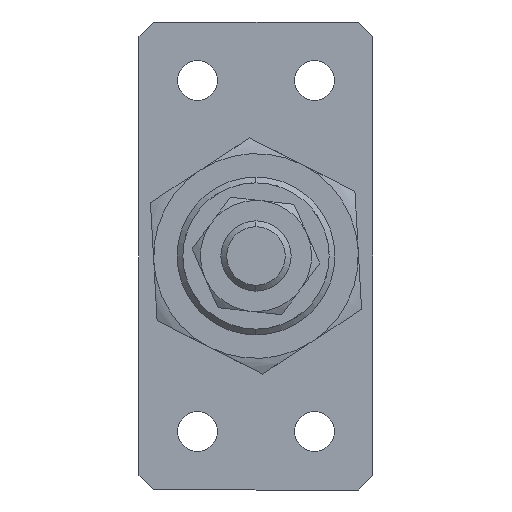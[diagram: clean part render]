
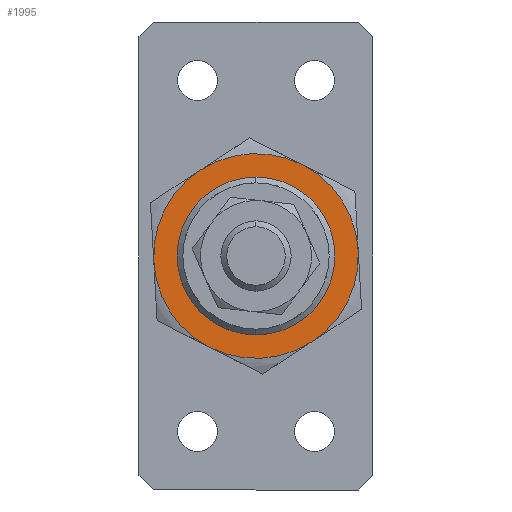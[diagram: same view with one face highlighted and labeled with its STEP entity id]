
A CAD part, left-side view. The second image highlights one B-rep face of the part: STEP entity #1995.
In plain terms, the highlighted planar face has unit normal (-1, 0, 0) as drawn and (0, 0, -1) by its records, which use the part's own axes.
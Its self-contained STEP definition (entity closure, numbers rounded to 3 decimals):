
#29 = DIRECTION ( 'NONE',  ( 1., 0., 0. ) ) ;
#37 = CARTESIAN_POINT ( 'NONE',  ( 0., 0., -5. ) ) ;
#62 = AXIS2_PLACEMENT_3D ( 'NONE', #37, #2922, #4189 ) ;
#84 = CIRCLE ( 'NONE', #4132, 17.5 ) ;
#110 = CARTESIAN_POINT ( 'NONE',  ( 0., 0., -5. ) ) ;
#161 = ORIENTED_EDGE ( 'NONE', *, *, #4270, .F. ) ;
#233 = CARTESIAN_POINT ( 'NONE',  ( 8.75, -15.155, -5. ) ) ;
#259 = DIRECTION ( 'NONE',  ( 0., 0., 1. ) ) ;
#425 = DIRECTION ( 'NONE',  ( 0., 0., 1. ) ) ;
#432 = CARTESIAN_POINT ( 'NONE',  ( 12.5, 0., -5. ) ) ;
#438 = VERTEX_POINT ( 'NONE', #3554 ) ;
#543 = CIRCLE ( 'NONE', #3220, 12.5 ) ;
#583 = DIRECTION ( 'NONE',  ( 1., 0., 0. ) ) ;
#698 = CARTESIAN_POINT ( 'NONE',  ( 0., 0., -5. ) ) ;
#765 = EDGE_CURVE ( 'NONE', #2334, #1547, #4344, .T. ) ;
#794 = DIRECTION ( 'NONE',  ( 0., 0., 1. ) ) ;
#828 = DIRECTION ( 'NONE',  ( 1., 0., 0. ) ) ;
#886 = CARTESIAN_POINT ( 'NONE',  ( 0., 0., -5. ) ) ;
#958 = EDGE_CURVE ( 'NONE', #2666, #438, #543, .T. ) ;
#985 = EDGE_CURVE ( 'NONE', #1547, #4388, #3915, .T. ) ;
#1069 = AXIS2_PLACEMENT_3D ( 'NONE', #4001, #794, #583 ) ;
#1085 = EDGE_CURVE ( 'NONE', #4388, #1910, #3242, .T. ) ;
#1262 = AXIS2_PLACEMENT_3D ( 'NONE', #886, #4306, #3335 ) ;
#1279 = DIRECTION ( 'NONE',  ( 0., 0., 1. ) ) ;
#1320 = ORIENTED_EDGE ( 'NONE', *, *, #1085, .F. ) ;
#1460 = CARTESIAN_POINT ( 'NONE',  ( -8.75, 15.155, -5. ) ) ;
#1547 = VERTEX_POINT ( 'NONE', #4187 ) ;
#1578 = CARTESIAN_POINT ( 'NONE',  ( 0., 0., -5. ) ) ;
#1592 = ORIENTED_EDGE ( 'NONE', *, *, #2335, .T. ) ;
#1649 = DIRECTION ( 'NONE',  ( 0., 0., 1. ) ) ;
#1807 = AXIS2_PLACEMENT_3D ( 'NONE', #110, #259, #3901 ) ;
#1809 = DIRECTION ( 'NONE',  ( 1., 0., 0. ) ) ;
#1829 = CARTESIAN_POINT ( 'NONE',  ( 0., 0., -5. ) ) ;
#1910 = VERTEX_POINT ( 'NONE', #1460 ) ;
#1995 = ADVANCED_FACE ( 'NONE', ( #3661, #1997 ), #3707, .F. ) ;
#1997 = FACE_OUTER_BOUND ( 'NONE', #3631, .T. ) ;
#2021 = CARTESIAN_POINT ( 'NONE',  ( -17.5, 0., -5. ) ) ;
#2050 = ORIENTED_EDGE ( 'NONE', *, *, #765, .F. ) ;
#2104 = AXIS2_PLACEMENT_3D ( 'NONE', #2909, #3510, #29 ) ;
#2253 = CARTESIAN_POINT ( 'NONE',  ( 0., 0., -5. ) ) ;
#2334 = VERTEX_POINT ( 'NONE', #233 ) ;
#2335 = EDGE_CURVE ( 'NONE', #438, #2666, #2685, .T. ) ;
#2371 = ORIENTED_EDGE ( 'NONE', *, *, #2566, .F. ) ;
#2566 = EDGE_CURVE ( 'NONE', #3612, #2748, #84, .T. ) ;
#2621 = CIRCLE ( 'NONE', #1807, 17.5 ) ;
#2666 = VERTEX_POINT ( 'NONE', #432 ) ;
#2685 = CIRCLE ( 'NONE', #1262, 12.5 ) ;
#2748 = VERTEX_POINT ( 'NONE', #3870 ) ;
#2844 = AXIS2_PLACEMENT_3D ( 'NONE', #2253, #3440, #828 ) ;
#2909 = CARTESIAN_POINT ( 'NONE',  ( 0., 0., -5. ) ) ;
#2920 = CIRCLE ( 'NONE', #2104, 17.5 ) ;
#2922 = DIRECTION ( 'NONE',  ( 0., 0., 1. ) ) ;
#3033 = DIRECTION ( 'NONE',  ( 1., 0., 0. ) ) ;
#3183 = AXIS2_PLACEMENT_3D ( 'NONE', #698, #1279, #3366 ) ;
#3220 = AXIS2_PLACEMENT_3D ( 'NONE', #1578, #1649, #1809 ) ;
#3242 = CIRCLE ( 'NONE', #3183, 17.5 ) ;
#3335 = DIRECTION ( 'NONE',  ( 1., 0., 0. ) ) ;
#3366 = DIRECTION ( 'NONE',  ( 1., 0., 0. ) ) ;
#3440 = DIRECTION ( 'NONE',  ( 0., 0., 1. ) ) ;
#3510 = DIRECTION ( 'NONE',  ( 0., 0., 1. ) ) ;
#3554 = CARTESIAN_POINT ( 'NONE',  ( -12.5, 0., -5. ) ) ;
#3577 = EDGE_LOOP ( 'NONE', ( #4425, #1592 ) ) ;
#3612 = VERTEX_POINT ( 'NONE', #2021 ) ;
#3631 = EDGE_LOOP ( 'NONE', ( #4298, #2050, #161, #2371, #3763, #1320 ) ) ;
#3661 = FACE_BOUND ( 'NONE', #3577, .T. ) ;
#3707 = PLANE ( 'NONE',  #1069 ) ;
#3763 = ORIENTED_EDGE ( 'NONE', *, *, #4253, .F. ) ;
#3870 = CARTESIAN_POINT ( 'NONE',  ( -8.75, -15.155, -5. ) ) ;
#3901 = DIRECTION ( 'NONE',  ( 1., 0., 0. ) ) ;
#3915 = CIRCLE ( 'NONE', #62, 17.5 ) ;
#3958 = CARTESIAN_POINT ( 'NONE',  ( 8.75, 15.155, -5. ) ) ;
#4001 = CARTESIAN_POINT ( 'NONE',  ( 0., 0., -5. ) ) ;
#4132 = AXIS2_PLACEMENT_3D ( 'NONE', #1829, #425, #3033 ) ;
#4187 = CARTESIAN_POINT ( 'NONE',  ( 17.5, 0., -5. ) ) ;
#4189 = DIRECTION ( 'NONE',  ( 1., 0., 0. ) ) ;
#4253 = EDGE_CURVE ( 'NONE', #1910, #3612, #2920, .T. ) ;
#4270 = EDGE_CURVE ( 'NONE', #2748, #2334, #2621, .T. ) ;
#4298 = ORIENTED_EDGE ( 'NONE', *, *, #985, .F. ) ;
#4306 = DIRECTION ( 'NONE',  ( 0., 0., 1. ) ) ;
#4344 = CIRCLE ( 'NONE', #2844, 17.5 ) ;
#4388 = VERTEX_POINT ( 'NONE', #3958 ) ;
#4425 = ORIENTED_EDGE ( 'NONE', *, *, #958, .T. ) ;
